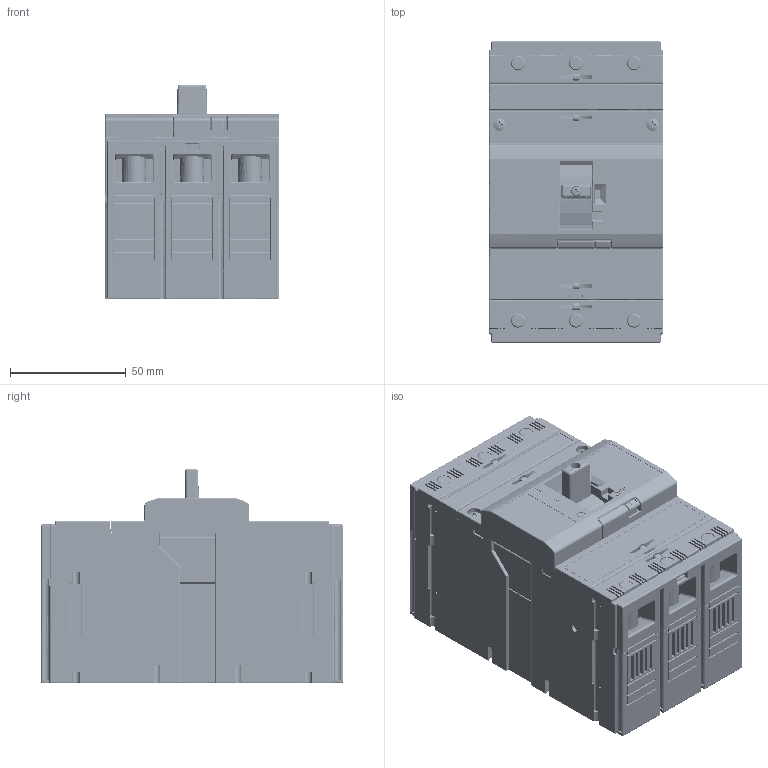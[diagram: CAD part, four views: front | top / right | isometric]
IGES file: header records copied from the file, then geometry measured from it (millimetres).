
Start section: SolidWorks IGES file using analytic representation for surfaces
Global section: file name: U:\14_RD\05_Technical_office\04_Office\Hrdinova\3D modely - IGES\Modeion\BC160NT305.IGS; native system: SolidWorks 2011; preprocessor: SolidWorks 2011; author: adhrja3; date: 170615.120921; units: millimetre
Bounding box: 75 x 130 x 92.5 mm (x, y, z)
Surface area: 142483.2 mm2 (no closed solid volume)
Topology: 0 solids, 0 shells, 4622 faces, 41001 edges, 40957 vertices
Faces by surface type: bspline 3025, revolution 1597
